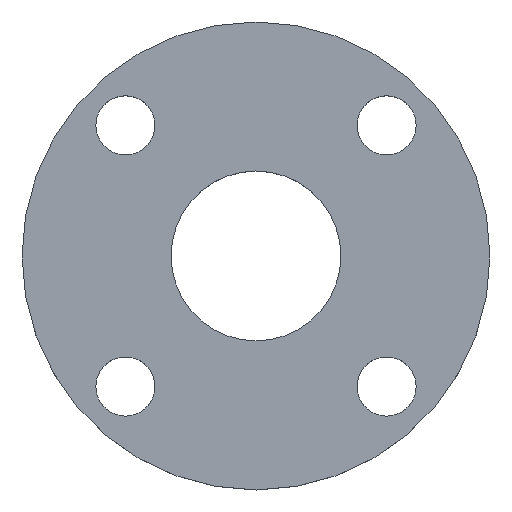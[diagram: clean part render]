
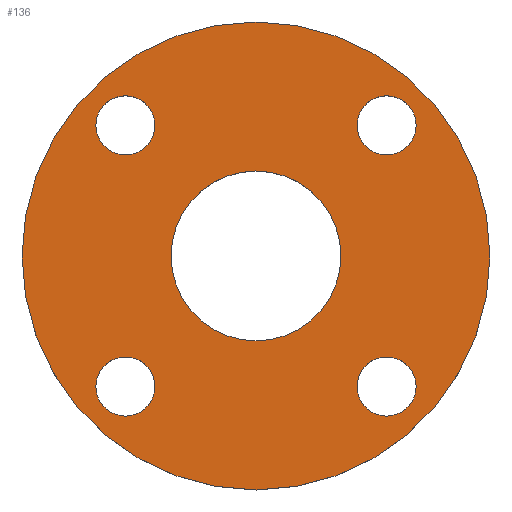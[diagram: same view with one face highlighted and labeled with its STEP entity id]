
A CAD part, top view. The second image highlights one B-rep face of the part: STEP entity #136.
In plain terms, the highlighted planar face has unit normal (0, 0, 1).
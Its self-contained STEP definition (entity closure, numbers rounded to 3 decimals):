
#14=PLANE($,#159);
#27=FACE_BOUND($,#57,.T.);
#28=FACE_BOUND($,#58,.T.);
#29=FACE_BOUND($,#59,.T.);
#30=FACE_BOUND($,#60,.T.);
#31=FACE_BOUND($,#61,.T.);
#32=FACE_BOUND($,#62,.T.);
#57=EDGE_LOOP($,(#117));
#58=EDGE_LOOP($,(#118));
#59=EDGE_LOOP($,(#119));
#60=EDGE_LOOP($,(#120));
#61=EDGE_LOOP($,(#121));
#62=EDGE_LOOP($,(#122));
#64=CIRCLE($,#142,6.);
#66=CIRCLE($,#145,6.);
#68=CIRCLE($,#148,6.);
#70=CIRCLE($,#151,6.);
#71=CIRCLE($,#153,17.25);
#73=CIRCLE($,#156,47.5);
#76=VERTEX_POINT($,#206);
#78=VERTEX_POINT($,#211);
#80=VERTEX_POINT($,#216);
#82=VERTEX_POINT($,#221);
#83=VERTEX_POINT($,#224);
#85=VERTEX_POINT($,#229);
#88=EDGE_CURVE($,#76,#76,#64,.T.);
#90=EDGE_CURVE($,#78,#78,#66,.T.);
#92=EDGE_CURVE($,#80,#80,#68,.T.);
#94=EDGE_CURVE($,#82,#82,#70,.T.);
#95=EDGE_CURVE($,#83,#83,#71,.T.);
#97=EDGE_CURVE($,#85,#85,#73,.T.);
#117=ORIENTED_EDGE($,*,*,#88,.T.);
#118=ORIENTED_EDGE($,*,*,#90,.T.);
#119=ORIENTED_EDGE($,*,*,#92,.T.);
#120=ORIENTED_EDGE($,*,*,#94,.T.);
#121=ORIENTED_EDGE($,*,*,#95,.T.);
#122=ORIENTED_EDGE($,*,*,#97,.T.);
#136=ADVANCED_FACE($,(#27,#28,#29,#30,#31,#32),#14,.T.);
#142=AXIS2_PLACEMENT_3D($,#207,#166,#167);
#145=AXIS2_PLACEMENT_3D($,#212,#172,#173);
#148=AXIS2_PLACEMENT_3D($,#217,#178,#179);
#151=AXIS2_PLACEMENT_3D($,#222,#184,#185);
#153=AXIS2_PLACEMENT_3D($,#225,#188,#189);
#156=AXIS2_PLACEMENT_3D($,#230,#194,#195);
#159=AXIS2_PLACEMENT_3D($,#234,#200,#201);
#166=DIRECTION('center_axis',(0.,0.,-1.));
#167=DIRECTION('ref_axis',(0.,1.,0.));
#172=DIRECTION('center_axis',(0.,0.,-1.));
#173=DIRECTION('ref_axis',(1.,0.,0.));
#178=DIRECTION('center_axis',(0.,0.,-1.));
#179=DIRECTION('ref_axis',(0.,-1.,0.));
#184=DIRECTION('center_axis',(0.,0.,-1.));
#185=DIRECTION('ref_axis',(-1.,0.,0.));
#188=DIRECTION('center_axis',(0.,0.,-1.));
#189=DIRECTION('ref_axis',(-1.,0.,0.));
#194=DIRECTION('center_axis',(0.,0.,1.));
#195=DIRECTION('ref_axis',(-1.,0.,0.));
#200=DIRECTION('center_axis',(0.,0.,1.));
#201=DIRECTION('ref_axis',(1.,0.,0.));
#206=CARTESIAN_POINT('',(26.517,20.517,10.));
#207=CARTESIAN_POINT('Origin',(26.517,26.517,10.));
#211=CARTESIAN_POINT('',(20.517,-26.517,10.));
#212=CARTESIAN_POINT('Origin',(26.517,-26.517,10.));
#216=CARTESIAN_POINT('',(-26.517,-20.517,10.));
#217=CARTESIAN_POINT('Origin',(-26.517,-26.517,10.));
#221=CARTESIAN_POINT('',(-20.517,26.517,10.));
#222=CARTESIAN_POINT('Origin',(-26.517,26.517,10.));
#224=CARTESIAN_POINT('',(17.25,0.,10.));
#225=CARTESIAN_POINT('Origin',(0.,0.,10.));
#229=CARTESIAN_POINT('',(47.5,0.,10.));
#230=CARTESIAN_POINT('Origin',(0.,0.,10.));
#234=CARTESIAN_POINT('Origin',(0.,0.,10.));
